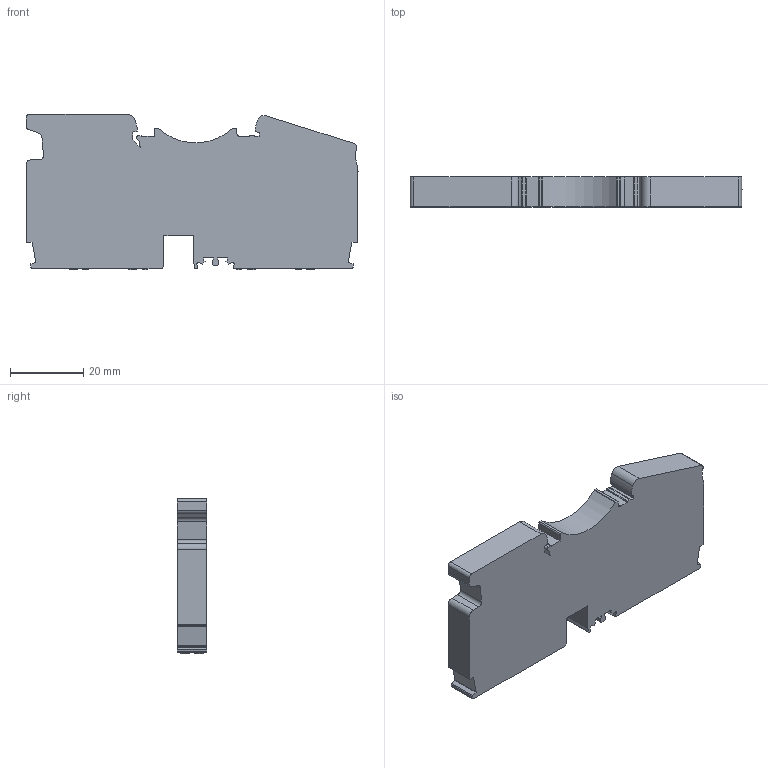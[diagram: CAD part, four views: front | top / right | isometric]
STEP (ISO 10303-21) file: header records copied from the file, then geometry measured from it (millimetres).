
FILE_DESCRIPTION((''),'2;1');
FILE_NAME('PRT0007','2022-03-09T',('Administrator'),(''),'PRO/ENGINEER BY PARAMETRIC TECHNOLOGY CORPORATION, 2014000','PRO/ENGINEER BY PARAMETRIC TECHNOLOGY CORPORATION, 2014000','');
FILE_SCHEMA(('CONFIG_CONTROL_DESIGN'));
Length unit declared in the file: millimetre
Products named in the file (1): PRT0007
Bounding box: 90.4 x 8.15 x 42.3 mm (x, y, z)
Volume: 25069.5 mm3; surface area: 10191.5 mm2
Topology: 1 solids, 1 shells, 485 faces, 1334 edges, 851 vertices
Faces by surface type: plane 264, cylinder 181, torus 24, bspline 8, sphere 8
Entity records: 15930 total; most frequent: CARTESIAN_POINT 3543, ORIENTED_EDGE 2652, DIRECTION 2525, EDGE_CURVE 1326, VECTOR 901, LINE 901, VERTEX_POINT 851, AXIS2_PLACEMENT_3D 812
